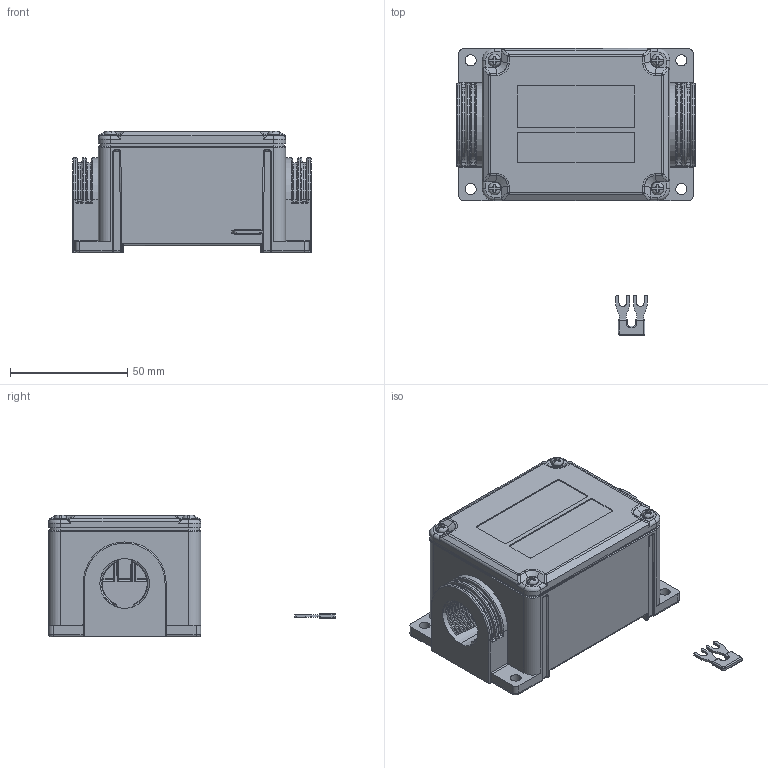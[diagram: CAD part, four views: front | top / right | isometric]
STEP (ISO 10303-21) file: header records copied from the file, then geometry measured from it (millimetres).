
FILE_DESCRIPTION(('Creo Elements/Direct Modeling STEP Export'),'2;1');
FILE_NAME('H08-0020-CL901_JB-WG307.stp','2012-01-26T14:20:27',(''),(''),'Creo Elements/Direct Modeling STEP processor for AP214 (Solid Model)','Creo Elements/Direct Modeling 18.0B 02-Dec-2011 (C) Parametric Technology GmbH','');
FILE_SCHEMA(('AUTOMOTIVE_DESIGN { 1 0 10303 214 1 1 1 1 }'));
Products named in the file (18): 本体; 端子ねじ1.1.2; 端子部.1; ナット2; ナット1; ナット3; ナット4; ナット; フタねじ1; フタねじ2; フタねじ3; フタねじ4; フタねじ; フタ; フタ部; JB-WG307; ショートバー：JB-SB152; 付属品
Assembly tree (29 placements, depth 4):
  JB-WG307
    フタ部
      フタ
      フタねじ
        フタねじ4
        フタねじ3
        フタねじ2
        フタねじ1
    ナット
      ナット4
      ナット3
      ナット1
      ナット2
    端子部.1
      端子ねじ1.1.2  x14
    本体
  付属品
    ショートバー：JB-SB152
Bounding box: 102 x 122.53 x 52 mm (x, y, z)
Volume: 105990.1 mm3; surface area: 77885.1 mm2
Topology: 25 solids, 26 shells, 4237 faces, 11184 edges, 7097 vertices
Faces by surface type: plane 2117, cylinder 1150, bspline 664, torus 167, cone 104, sphere 21, extrusion 14
Entity records: 190719 total; most frequent: CARTESIAN_POINT 116831, ORIENTED_EDGE 17410, DIRECTION 11946, EDGE_CURVE 8705, VERTEX_POINT 5485, VECTOR 4618, LINE 4604, AXIS2_PLACEMENT_3D 3664
